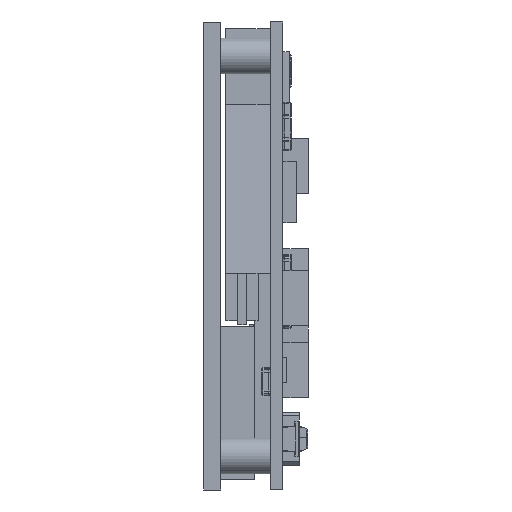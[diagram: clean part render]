
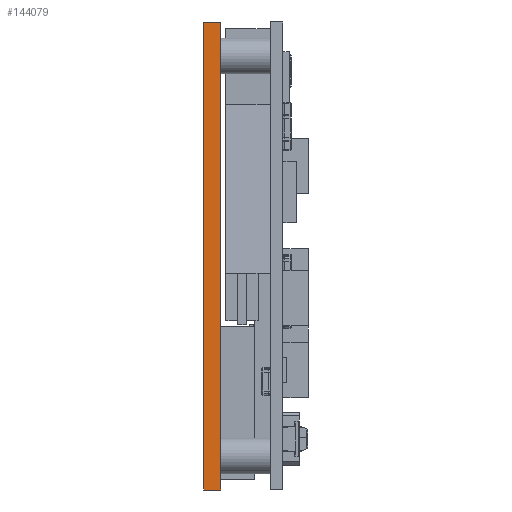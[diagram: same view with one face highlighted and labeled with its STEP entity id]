
A CAD part, left-side view. The second image highlights one B-rep face of the part: STEP entity #144079.
In plain terms, the highlighted planar face has unit normal (-1, 0, 0) as drawn and (1, 0, 0) by its records, which use the part's own axes.
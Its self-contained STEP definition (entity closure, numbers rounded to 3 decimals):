
#11839 = EDGE_CURVE ( 'NONE', #43869, #46552, #74467, .T. ) ;
#13298 = DIRECTION ( 'NONE',  ( 0., 1., 0. ) ) ;
#17619 = VECTOR ( 'NONE', #128133, 1000. ) ;
#18605 = DIRECTION ( 'NONE',  ( 0., 0., 1. ) ) ;
#18680 = DIRECTION ( 'NONE',  ( 0., 1., 0. ) ) ;
#22704 = CARTESIAN_POINT ( 'NONE',  ( 42., 55., -2. ) ) ;
#27456 = ORIENTED_EDGE ( 'NONE', *, *, #31196, .T. ) ;
#28409 = ORIENTED_EDGE ( 'NONE', *, *, #11839, .F. ) ;
#29949 = ORIENTED_EDGE ( 'NONE', *, *, #96632, .F. ) ;
#30797 = CARTESIAN_POINT ( 'NONE',  ( 42., 0., -2. ) ) ;
#31196 = EDGE_CURVE ( 'NONE', #101592, #100788, #93250, .T. ) ;
#32584 = VECTOR ( 'NONE', #18605, 1000. ) ;
#43869 = VERTEX_POINT ( 'NONE', #91592 ) ;
#46552 = VERTEX_POINT ( 'NONE', #103000 ) ;
#48248 = VECTOR ( 'NONE', #140274, 1000. ) ;
#58549 = CARTESIAN_POINT ( 'NONE',  ( 42., 0., -2. ) ) ;
#59482 = CARTESIAN_POINT ( 'NONE',  ( 42., 55., -2. ) ) ;
#59868 = VECTOR ( 'NONE', #18680, 1000. ) ;
#60949 = CARTESIAN_POINT ( 'NONE',  ( 42., 55., -2. ) ) ;
#69787 = DIRECTION ( 'NONE',  ( 1., 0., 0. ) ) ;
#74467 = LINE ( 'NONE', #96163, #48248 ) ;
#76719 = ORIENTED_EDGE ( 'NONE', *, *, #135193, .T. ) ;
#86004 = CARTESIAN_POINT ( 'NONE',  ( 42., 55., -2. ) ) ;
#91592 = CARTESIAN_POINT ( 'NONE',  ( 42., 0., 0. ) ) ;
#93250 = LINE ( 'NONE', #86004, #59868 ) ;
#93720 = LINE ( 'NONE', #30797, #32584 ) ;
#96163 = CARTESIAN_POINT ( 'NONE',  ( 42., 55., 0. ) ) ;
#96632 = EDGE_CURVE ( 'NONE', #101592, #43869, #93720, .T. ) ;
#97362 = FACE_OUTER_BOUND ( 'NONE', #103234, .T. ) ;
#100788 = VERTEX_POINT ( 'NONE', #22704 ) ;
#101592 = VERTEX_POINT ( 'NONE', #58549 ) ;
#103000 = CARTESIAN_POINT ( 'NONE',  ( 42., 55., 0. ) ) ;
#103234 = EDGE_LOOP ( 'NONE', ( #28409, #29949, #27456, #76719 ) ) ;
#105172 = LINE ( 'NONE', #60949, #17619 ) ;
#105229 = AXIS2_PLACEMENT_3D ( 'NONE', #59482, #69787, #13298 ) ;
#126716 = PLANE ( 'NONE',  #105229 ) ;
#128133 = DIRECTION ( 'NONE',  ( 0., 0., 1. ) ) ;
#135193 = EDGE_CURVE ( 'NONE', #100788, #46552, #105172, .T. ) ;
#140274 = DIRECTION ( 'NONE',  ( 0., 1., 0. ) ) ;
#144079 = ADVANCED_FACE ( 'NONE', ( #97362 ), #126716, .T. ) ;
